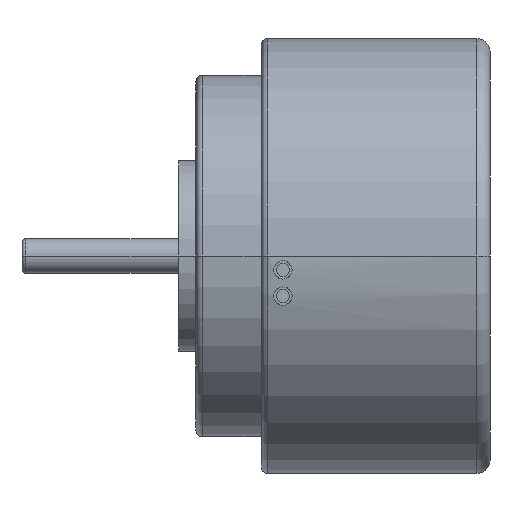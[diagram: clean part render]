
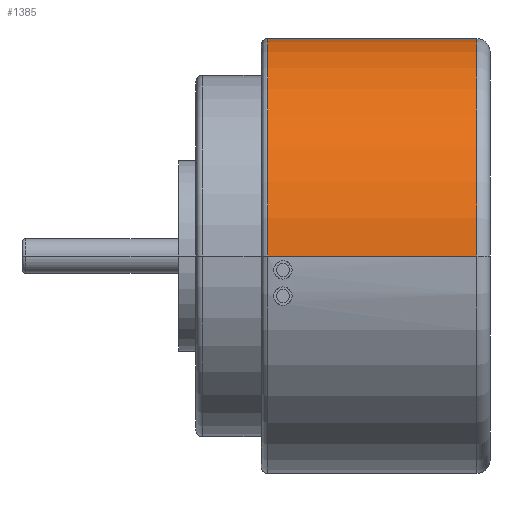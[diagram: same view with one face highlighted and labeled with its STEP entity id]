
A CAD part, front view. The second image highlights one B-rep face of the part: STEP entity #1385.
In plain terms, the highlighted cylindrical face has radius 25 mm (diameter 50 mm), a partial arc.
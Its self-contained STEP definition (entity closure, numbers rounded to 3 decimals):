
#439=CARTESIAN_POINT('',(0.75,0.,0.));
#440=DIRECTION('',(-1.,0.,0.));
#441=DIRECTION('',(0.,-1.,0.));
#442=AXIS2_PLACEMENT_3D('',#439,#440,#441);
#444=CARTESIAN_POINT('',(24.8,0.,0.));
#445=DIRECTION('',(-1.,0.,0.));
#446=DIRECTION('',(0.,-1.,0.));
#447=AXIS2_PLACEMENT_3D('',#444,#445,#446);
#454=DIRECTION('',(-1.,0.,0.));
#455=VECTOR('',#454,24.05);
#456=CARTESIAN_POINT('',(24.8,-25.,0.));
#457=LINE('',#456,#455);
#463=DIRECTION('',(-1.,0.,0.));
#464=VECTOR('',#463,24.05);
#465=CARTESIAN_POINT('',(24.8,25.,0.));
#466=LINE('',#465,#464);
#673=CARTESIAN_POINT('',(0.75,25.,0.));
#674=CARTESIAN_POINT('',(0.75,-25.,0.));
#675=VERTEX_POINT('',#673);
#676=VERTEX_POINT('',#674);
#677=CARTESIAN_POINT('',(24.8,25.,0.));
#678=CARTESIAN_POINT('',(24.8,-25.,0.));
#679=VERTEX_POINT('',#677);
#680=VERTEX_POINT('',#678);
#1371=CARTESIAN_POINT('',(-30.19,0.,0.));
#1372=DIRECTION('',(1.,0.,0.));
#1373=DIRECTION('',(0.,-1.,0.));
#1374=AXIS2_PLACEMENT_3D('',#1371,#1372,#1373);
#1375=CYLINDRICAL_SURFACE('',#1374,25.);
#1376=ORIENTED_EDGE('',*,*,#1365,.T.);
#1378=ORIENTED_EDGE('',*,*,#1377,.F.);
#1380=ORIENTED_EDGE('',*,*,#1379,.F.);
#1382=ORIENTED_EDGE('',*,*,#1381,.T.);
#1383=EDGE_LOOP('',(#1376,#1378,#1380,#1382));
#1384=FACE_OUTER_BOUND('',#1383,.F.);
#1385=ADVANCED_FACE('',(#1384),#1375,.T.);
#443=CIRCLE('',#442,25.);
#448=CIRCLE('',#447,25.);
#1365=EDGE_CURVE('',#676,#675,#443,.T.);
#1377=EDGE_CURVE('',#679,#675,#466,.T.);
#1379=EDGE_CURVE('',#680,#679,#448,.T.);
#1381=EDGE_CURVE('',#680,#676,#457,.T.);
